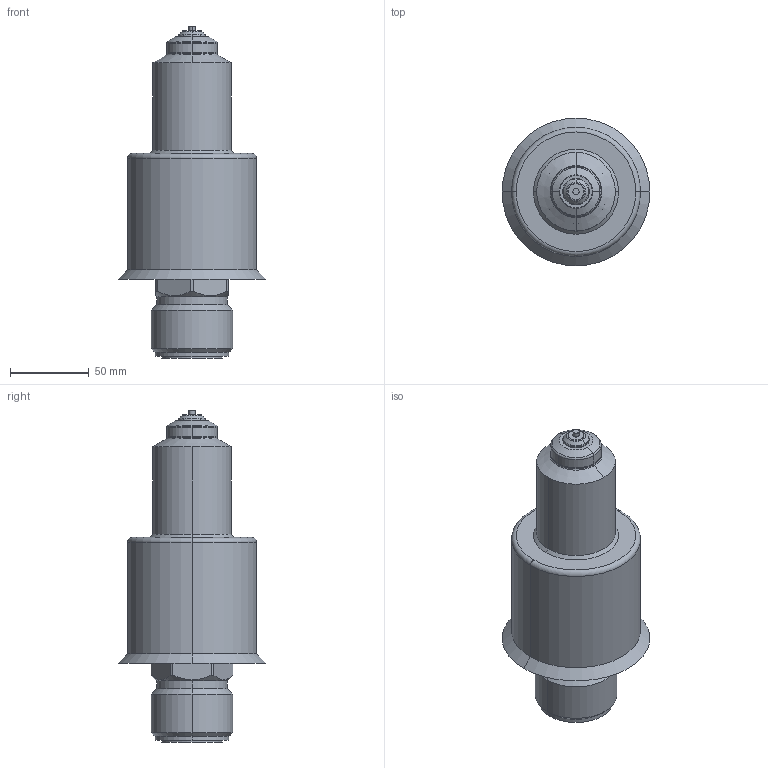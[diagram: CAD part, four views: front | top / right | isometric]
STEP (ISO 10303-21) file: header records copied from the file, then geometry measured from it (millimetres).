
FILE_DESCRIPTION (( 'STEP AP214' ), '1' );
FILE_NAME ('T20_OPEN_161_BAND.STEP', '2009-07-06T17:55:14', ( 'Synventive Molding Solutions' ), ( 'Synventive Molding Solutions' ), 'SwSTEP 2.0', 'SolidWorks 2008', '' );
FILE_SCHEMA (( 'AUTOMOTIVE_DESIGN' ));
Length unit declared in the file: millimetre
Products named in the file (1): T20_OPEN_161_BAND
Bounding box: 94 x 94 x 211 mm (x, y, z)
Volume: 922039.3 mm3; surface area: 84354.8 mm2
Topology: 3 solids, 3 shells, 281 faces, 692 edges, 427 vertices
Faces by surface type: cylinder 98, plane 96, torus 51, cone 32, sphere 2, bspline 2
Entity records: 12296 total; most frequent: CARTESIAN_POINT 2439, DIRECTION 1480, ORIENTED_EDGE 1380, EDGE_CURVE 690, AXIS2_PLACEMENT_3D 592, VERTEX_POINT 427, CIRCLE 312, EDGE_LOOP 299
